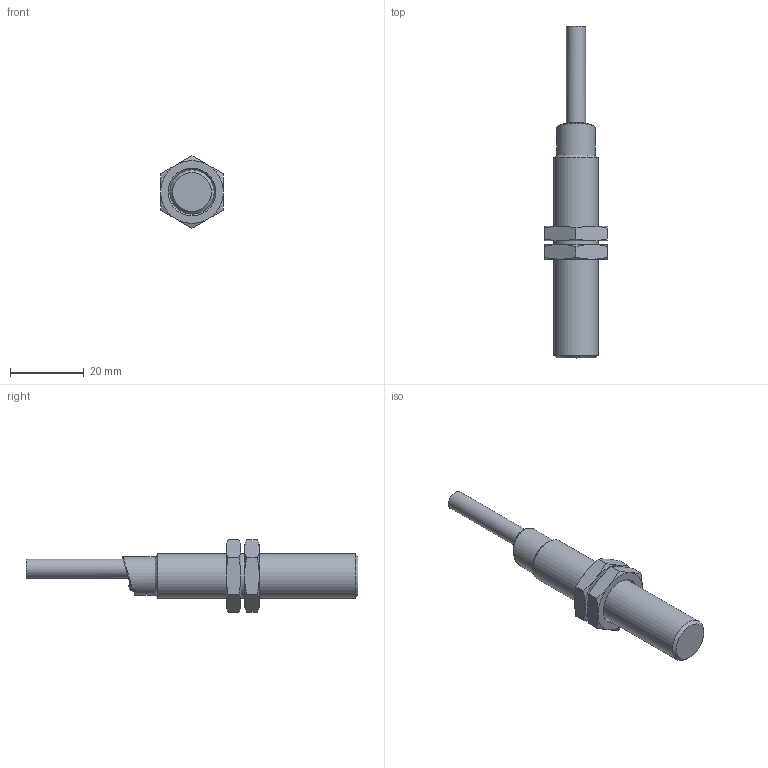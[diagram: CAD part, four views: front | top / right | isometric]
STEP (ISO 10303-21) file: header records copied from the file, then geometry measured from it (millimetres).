
FILE_DESCRIPTION (( 'STEP AP203' ), '1' );
FILE_NAME ('Bi-M12E-X.step', '2019-12-19T14:26:20', ( '' ), ( '' ), 'SwSTEP 2.0', 'SolidWorks 2017', '' );
FILE_SCHEMA (( 'CONFIG_CONTROL_DESIGN' ));
Length unit declared in the file: millimetre
Products named in the file (1): Bi-M12E-X
Bounding box: 17 x 90 x 19.63 mm (x, y, z)
Volume: 8289.8 mm3; surface area: 4567.1 mm2
Topology: 3 solids, 4 shells, 70 faces, 150 edges, 88 vertices
Faces by surface type: cone 30, plane 23, cylinder 11, sphere 3, bspline 2, torus 1
Full cylindrical faces by diameter (mm): 3 x1, 3.42 x1, 5.2 x1, 10.5 x1, 10.917 x2, 12 x1
Entity records: 2440 total; most frequent: CARTESIAN_POINT 1091, DIRECTION 258, ORIENTED_EDGE 258, EDGE_CURVE 129, AXIS2_PLACEMENT_3D 120, EDGE_LOOP 89, VERTEX_POINT 82, FACE_OUTER_BOUND 77
